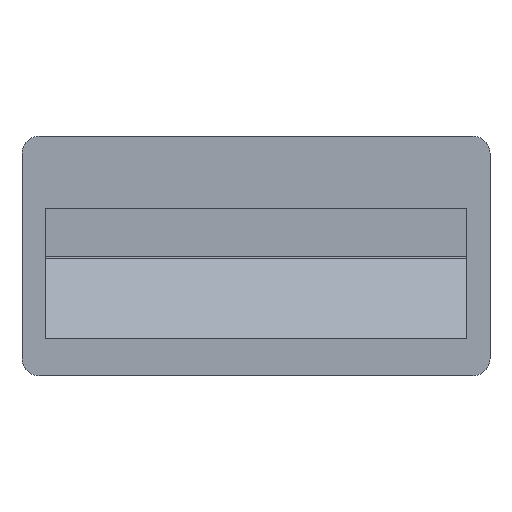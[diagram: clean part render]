
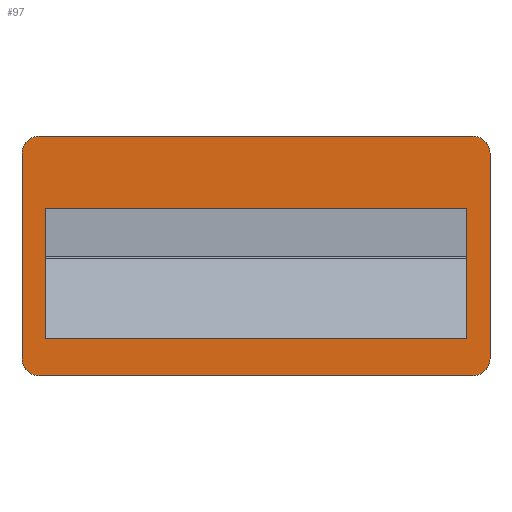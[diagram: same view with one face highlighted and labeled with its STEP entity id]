
A CAD part, top view. The second image highlights one B-rep face of the part: STEP entity #97.
In plain terms, the highlighted planar face has unit normal (0, 0, 1).
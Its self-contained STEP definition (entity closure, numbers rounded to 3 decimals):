
#97=ADVANCED_FACE('',(#151,#152),#153,.T.);
#151=FACE_BOUND('',#216,.T.);
#152=FACE_OUTER_BOUND('',#217,.T.);
#153=PLANE('',#218);
#216=EDGE_LOOP('',(#403,#404,#405,#406));
#217=EDGE_LOOP('',(#407,#408,#409,#410,#411,#412,#413,#414));
#218=AXIS2_PLACEMENT_3D('',#415,#416,#417);
#403=ORIENTED_EDGE('',*,*,#520,.T.);
#404=ORIENTED_EDGE('',*,*,#522,.T.);
#405=ORIENTED_EDGE('',*,*,#507,.T.);
#406=ORIENTED_EDGE('',*,*,#521,.T.);
#407=ORIENTED_EDGE('',*,*,#540,.T.);
#408=ORIENTED_EDGE('',*,*,#544,.T.);
#409=ORIENTED_EDGE('',*,*,#545,.T.);
#410=ORIENTED_EDGE('',*,*,#546,.T.);
#411=ORIENTED_EDGE('',*,*,#547,.T.);
#412=ORIENTED_EDGE('',*,*,#548,.T.);
#413=ORIENTED_EDGE('',*,*,#549,.T.);
#414=ORIENTED_EDGE('',*,*,#550,.T.);
#415=CARTESIAN_POINT('',(0.0,28.15,0.0));
#416=DIRECTION('',(0.0,0.0,1.0));
#417=DIRECTION('',(1.0,0.0,0.0));
#507=EDGE_CURVE('',#603,#600,#604,.T.);
#520=EDGE_CURVE('',#620,#622,#624,.T.);
#521=EDGE_CURVE('',#600,#620,#625,.T.);
#522=EDGE_CURVE('',#622,#603,#626,.T.);
#540=EDGE_CURVE('',#654,#655,#656,.T.);
#544=EDGE_CURVE('',#655,#662,#663,.T.);
#545=EDGE_CURVE('',#662,#664,#665,.T.);
#546=EDGE_CURVE('',#664,#666,#667,.T.);
#547=EDGE_CURVE('',#666,#668,#669,.T.);
#548=EDGE_CURVE('',#668,#670,#671,.T.);
#549=EDGE_CURVE('',#670,#672,#673,.T.);
#550=EDGE_CURVE('',#672,#654,#674,.T.);
#600=VERTEX_POINT('',#746);
#603=VERTEX_POINT('',#750);
#604=LINE('',#751,#752);
#620=VERTEX_POINT('',#774);
#622=VERTEX_POINT('',#777);
#624=LINE('',#780,#781);
#625=LINE('',#782,#783);
#626=LINE('',#784,#785);
#654=VERTEX_POINT('',#826);
#655=VERTEX_POINT('',#827);
#656=CIRCLE('',#828,4.0);
#662=VERTEX_POINT('',#836);
#663=LINE('',#837,#838);
#664=VERTEX_POINT('',#839);
#665=CIRCLE('',#840,4.0);
#666=VERTEX_POINT('',#841);
#667=LINE('',#842,#843);
#668=VERTEX_POINT('',#844);
#669=CIRCLE('',#845,4.0);
#670=VERTEX_POINT('',#846);
#671=LINE('',#847,#848);
#672=VERTEX_POINT('',#849);
#673=CIRCLE('',#850,4.0);
#674=LINE('',#851,#852);
#746=CARTESIAN_POINT('',(-49.5,8.728,0.));
#750=CARTESIAN_POINT('',(49.5,8.728,0.0));
#751=CARTESIAN_POINT('',(24.75,8.728,0.));
#752=VECTOR('',#911,1.0);
#774=CARTESIAN_POINT('',(-49.5,39.201,0.));
#777=CARTESIAN_POINT('',(49.5,39.201,0.));
#780=CARTESIAN_POINT('',(24.75,39.201,0.0));
#781=VECTOR('',#932,1.0);
#782=CARTESIAN_POINT('',(-49.5,29.971,0.0));
#783=VECTOR('',#933,1.0);
#784=CARTESIAN_POINT('',(49.5,29.971,0.0));
#785=VECTOR('',#934,1.0);
#826=CARTESIAN_POINT('',(-55.0,4.0,0.0));
#827=CARTESIAN_POINT('',(-51.0,0.,0.0));
#828=AXIS2_PLACEMENT_3D('',#960,#961,#962);
#836=CARTESIAN_POINT('',(51.0,0.,0.0));
#837=CARTESIAN_POINT('',(0.0,0.0,0.0));
#838=VECTOR('',#968,1.0);
#839=CARTESIAN_POINT('',(55.0,4.0,0.0));
#840=AXIS2_PLACEMENT_3D('',#969,#970,#971);
#841=CARTESIAN_POINT('',(55.0,52.3,0.0));
#842=CARTESIAN_POINT('',(55.0,28.15,0.0));
#843=VECTOR('',#972,1.0);
#844=CARTESIAN_POINT('',(51.0,56.3,0.0));
#845=AXIS2_PLACEMENT_3D('',#973,#974,#975);
#846=CARTESIAN_POINT('',(-51.0,56.3,0.0));
#847=CARTESIAN_POINT('',(0.0,56.3,0.0));
#848=VECTOR('',#976,1.0);
#849=CARTESIAN_POINT('',(-55.0,52.3,0.0));
#850=AXIS2_PLACEMENT_3D('',#977,#978,#979);
#851=CARTESIAN_POINT('',(-55.0,28.15,0.0));
#852=VECTOR('',#980,1.0);
#911=DIRECTION('',(-1.0,0.,0.0));
#932=DIRECTION('',(1.0,0.,0.0));
#933=DIRECTION('',(0.0,1.0,0.0));
#934=DIRECTION('',(0.0,-1.0,0.0));
#960=CARTESIAN_POINT('',(-51.0,4.0,0.));
#961=DIRECTION('',(0.0,0.0,1.0));
#962=DIRECTION('',(-1.0,0.,0.0));
#968=DIRECTION('',(1.0,0.0,0.0));
#969=CARTESIAN_POINT('',(51.0,4.0,0.));
#970=DIRECTION('',(0.0,0.0,1.0));
#971=DIRECTION('',(1.0,0.0,0.0));
#972=DIRECTION('',(0.0,1.0,0.0));
#973=CARTESIAN_POINT('',(51.0,52.3,0.0));
#974=DIRECTION('',(0.0,0.0,1.0));
#975=DIRECTION('',(1.0,0.0,0.0));
#976=DIRECTION('',(-1.0,0.0,0.0));
#977=CARTESIAN_POINT('',(-51.0,52.3,0.));
#978=DIRECTION('',(0.0,0.0,1.0));
#979=DIRECTION('',(-1.0,0.0,0.0));
#980=DIRECTION('',(0.0,-1.0,0.0));
